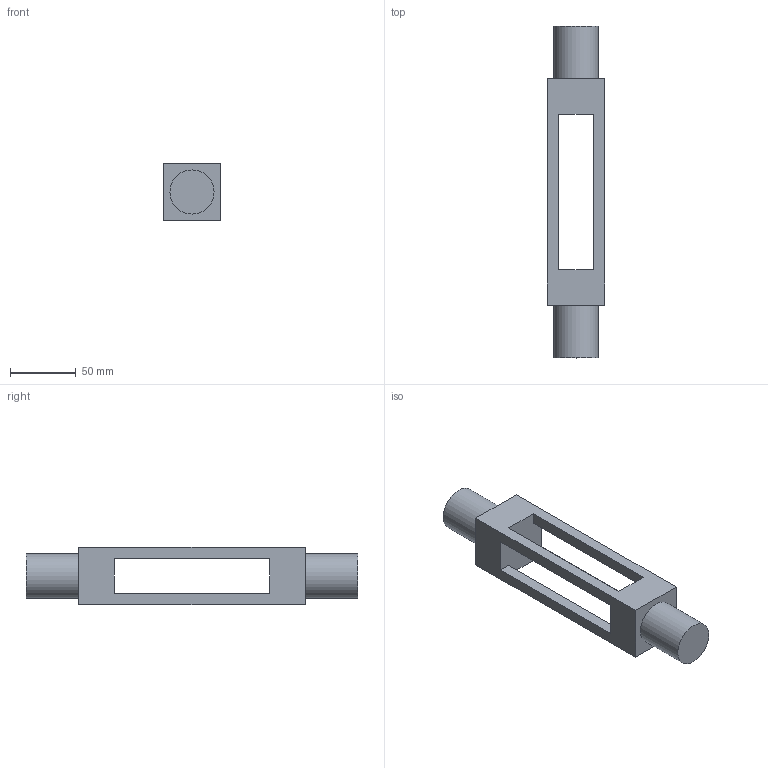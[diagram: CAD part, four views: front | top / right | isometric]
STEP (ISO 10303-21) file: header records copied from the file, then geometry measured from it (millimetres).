
FILE_DESCRIPTION(('Open CASCADE Model'),'2;1');
FILE_NAME('Open CASCADE Shape Model','2026-09-09T00:35:44',('Author'),( 'Open CASCADE'),'Open CASCADE STEP processor 7.7','Open CASCADE 7.7' ,'Unknown');
FILE_SCHEMA(('AUTOMOTIVE_DESIGN { 1 0 10303 214 1 1 1 1 }'));
Length unit declared in the file: millimetre
Products named in the file (1): Open CASCADE STEP translator 7.7 1
Bounding box: 43.55 x 252.22 x 43.55 mm (x, y, z)
Volume: 208388.3 mm3; surface area: 41253.4 mm2
Topology: 1 solids, 1 shells, 20 faces, 54 edges, 36 vertices
Faces by surface type: plane 18, cylinder 2
Full cylindrical faces by diameter (mm): 33.5 x2
Entity records: 1314 total; most frequent: CARTESIAN_POINT 251, DIRECTION 176, LINE 122, VECTOR 122, ORIENTED_EDGE 108, PCURVE 108, DEFINITIONAL_REPRESENTATION 108, EDGE_CURVE 54
